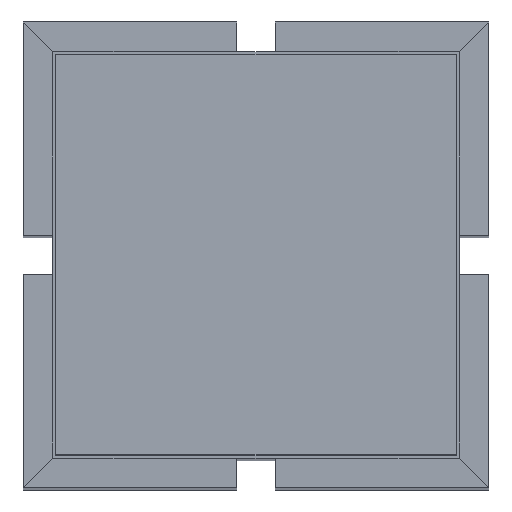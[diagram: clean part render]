
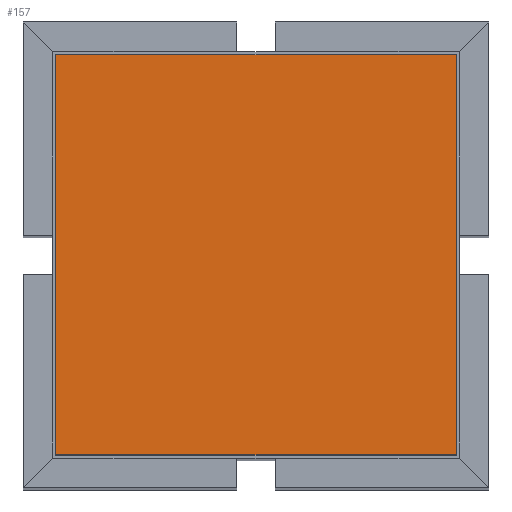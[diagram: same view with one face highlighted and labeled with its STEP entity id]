
A CAD part, top view. The second image highlights one B-rep face of the part: STEP entity #157.
In plain terms, the highlighted planar face has unit normal (0, 0, 1) as drawn and (0, 1, 0) by its records, which use the part's own axes.
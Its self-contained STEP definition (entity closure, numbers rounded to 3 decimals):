
#157=ADVANCED_FACE('',(#259),#1377,.T.);
#259=FACE_OUTER_BOUND('',#363,.T.);
#363=EDGE_LOOP('',(#744,#745,#746,#747));
#744=ORIENTED_EDGE('',*,*,#928,.F.);
#745=ORIENTED_EDGE('',*,*,#938,.F.);
#746=ORIENTED_EDGE('',*,*,#935,.F.);
#747=ORIENTED_EDGE('',*,*,#932,.F.);
#928=EDGE_CURVE('',#1284,#1285,#1088,.T.);
#932=EDGE_CURVE('',#1285,#1288,#1092,.T.);
#935=EDGE_CURVE('',#1288,#1290,#1095,.T.);
#938=EDGE_CURVE('',#1290,#1284,#1098,.T.);
#1088=B_SPLINE_CURVE_WITH_KNOTS('',1,(#2505,#2506),.UNSPECIFIED.,.F.,.F.,
(2,2),(0.,258.),.UNSPECIFIED.);
#1092=B_SPLINE_CURVE_WITH_KNOTS('',1,(#2513,#2514),.UNSPECIFIED.,.F.,.F.,
(2,2),(0.,258.),.UNSPECIFIED.);
#1095=B_SPLINE_CURVE_WITH_KNOTS('',1,(#2519,#2520),.UNSPECIFIED.,.F.,.F.,
(2,2),(0.,258.),.UNSPECIFIED.);
#1098=B_SPLINE_CURVE_WITH_KNOTS('',1,(#2525,#2526),.UNSPECIFIED.,.F.,.F.,
(2,2),(0.,258.),.UNSPECIFIED.);
#1284=VERTEX_POINT('',#2497);
#1285=VERTEX_POINT('',#2498);
#1288=VERTEX_POINT('',#2501);
#1290=VERTEX_POINT('',#2503);
#1377=PLANE('',#1704);
#1704=AXIS2_PLACEMENT_3D('',#2496,#1876,$);
#1876=DIRECTION('',(0.,1.,0.));
#2496=CARTESIAN_POINT('',(-154.8,449.,-154.8));
#2497=CARTESIAN_POINT('',(-129.,449.,129.));
#2498=CARTESIAN_POINT('',(-129.,449.,-129.));
#2501=CARTESIAN_POINT('',(129.,449.,-129.));
#2503=CARTESIAN_POINT('',(129.,449.,129.));
#2505=CARTESIAN_POINT('',(-129.,449.,129.));
#2506=CARTESIAN_POINT('',(-129.,449.,-129.));
#2513=CARTESIAN_POINT('',(-129.,449.,-129.));
#2514=CARTESIAN_POINT('',(129.,449.,-129.));
#2519=CARTESIAN_POINT('',(129.,449.,-129.));
#2520=CARTESIAN_POINT('',(129.,449.,129.));
#2525=CARTESIAN_POINT('',(129.,449.,129.));
#2526=CARTESIAN_POINT('',(-129.,449.,129.));
